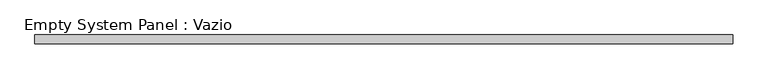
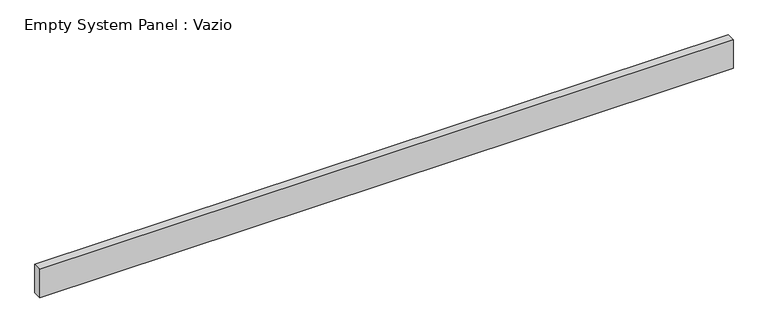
"""IFC4 building model written with IfcOpenShell, lengths in millimetres: plate geometry, Empty System Panel : Vazio."""

from ifc_helpers import new_model, si_unit, origin, origin_with_axes, place, context, project, spatial, polyline, outline, extrude, source, transform, mapped, element, save


def empty_system_panel_vazio_6e7ed4e6(model_context):
    return source(origin(), model_context, "Body", "SweptSolid", [
        extrude(outline(polyline([(4000.0, 50.0), (-4000.0, 50.0), (-4000.0, 150.0), (4000.0, 150.0), (4000.0, 50.0)])), origin_with_axes(), (0.0, 0.0, 1.0), 343.9164384),
    ])


if __name__ == "__main__":
    model = new_model("IFC4")
    model_context = context("Model", 3, world=origin())
    ifc_project = project(units=[si_unit("LENGTHUNIT", "METRE", prefix="MILLI")], contexts=[model_context])
    site = spatial("IfcSite", under=ifc_project)
    building = spatial("IfcBuilding", under=site)
    placement = place(None, origin())
    empty_system_panel_vazio_shape = empty_system_panel_vazio_6e7ed4e6(model_context)
    element("IfcPlate", 1, ObjectType="Empty System Panel : Vazio", at=placement, inside=building, context=model_context, shape_type="MappedRepresentation", body=[
        mapped(empty_system_panel_vazio_shape, transform((0.0, 0.0, 0.0), x_axis=(1.0, 0.0, 0.0), y_axis=(0.0, 1.0, 0.0), z_axis=(0.0, 0.0, 1.0))),
    ])
    save(model, "model.ifc")
